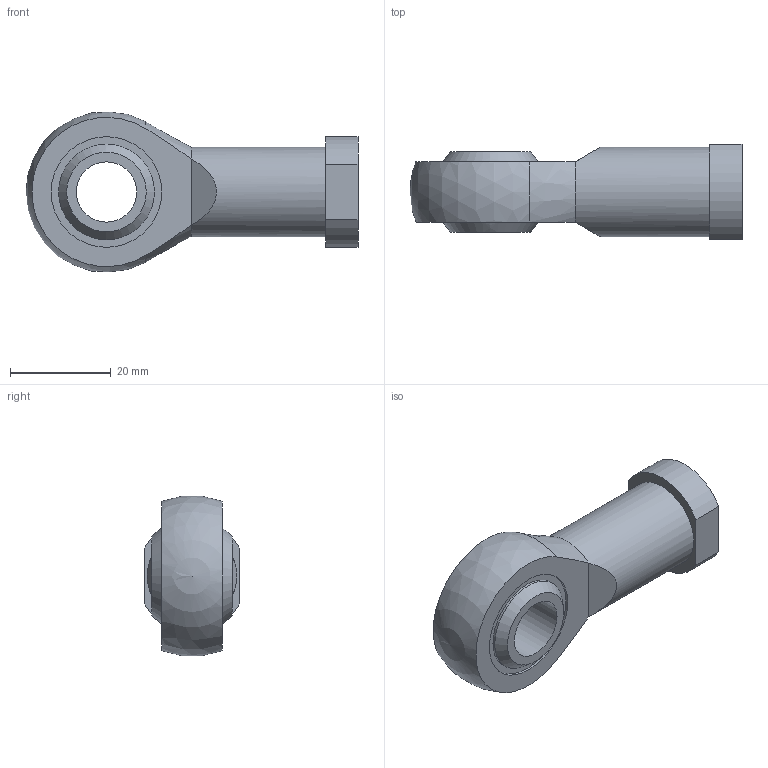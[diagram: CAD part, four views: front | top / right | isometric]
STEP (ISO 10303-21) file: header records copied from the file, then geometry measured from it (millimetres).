
FILE_DESCRIPTION(/* description */ (''),/* implementation_level */ '2;1');
FILE_NAME(/* name */ 'LAOAA-M12x1,25.step',/* time_stamp */ '2019-08-08T12:46:10+02:00',/* author */ ('octogon GmbH'),/* organization */ ('octogon GmbH'),/* preprocessor_version */ 'ST-DEVELOPER v15.6',/* originating_system */ 'Autodesk Inventor LT ',/* authorisation */ '');
FILE_SCHEMA (('AUTOMOTIVE_DESIGN { 1 0 10303 214 3 1 1 }'));
Length unit declared in the file: millimetre
Products named in the file (1): LAOAA-M12x1,25 rod end, stainless steel, female thread M12x1.25
Bounding box: 66 x 19 x 31.73 mm (x, y, z)
Volume: 15104.5 mm3; surface area: 6491.2 mm2
Topology: 1 solids, 1 shells, 29 faces, 65 edges, 42 vertices
Faces by surface type: plane 12, cylinder 10, cone 4, sphere 3
Full cylindrical faces by diameter (mm): 10.647 x2, 12 x1, 17.776 x1, 19.038 x2, 22 x2
Entity records: 780 total; most frequent: DIRECTION 132, CARTESIAN_POINT 122, ORIENTED_EDGE 94, AXIS2_PLACEMENT_3D 59, EDGE_LOOP 48, EDGE_CURVE 47, VERTEX_POINT 37, STYLED_ITEM 30
